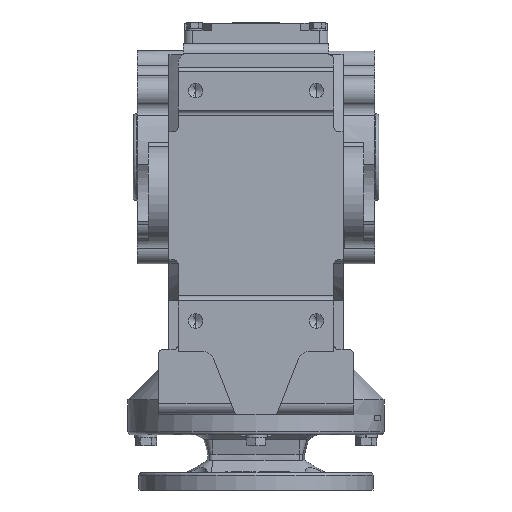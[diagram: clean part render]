
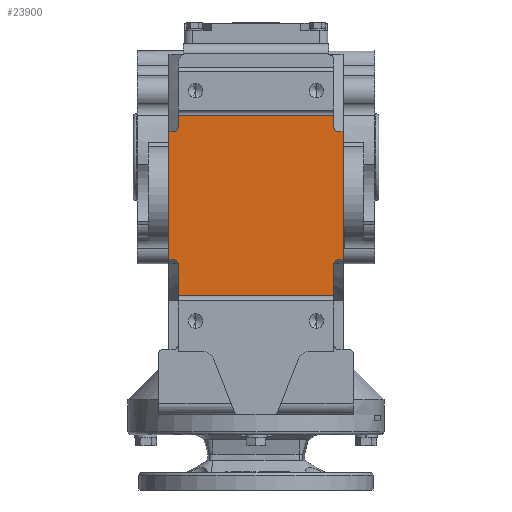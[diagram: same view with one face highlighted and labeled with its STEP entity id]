
A CAD part, front view. The second image highlights one B-rep face of the part: STEP entity #23900.
In plain terms, the highlighted planar face has unit normal (0, -1, 0).
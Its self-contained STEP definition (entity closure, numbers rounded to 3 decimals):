
#852 = VECTOR ( 'NONE', #52463, 1000. ) ;
#855 = LINE ( 'NONE', #52421, #909 ) ;
#856 = VECTOR ( 'NONE', #52420, 1000. ) ;
#905 = LINE ( 'NONE', #52432, #852 ) ;
#909 = VECTOR ( 'NONE', #52422, 1000. ) ;
#913 = VECTOR ( 'NONE', #52414, 1000. ) ;
#914 = LINE ( 'NONE', #52419, #913 ) ;
#920 = CIRCLE ( 'NONE', #28928, 5. ) ;
#921 = VECTOR ( 'NONE', #52410, 1000. ) ;
#931 = LINE ( 'NONE', #52415, #856 ) ;
#933 = VECTOR ( 'NONE', #52399, 1000. ) ;
#937 = LINE ( 'NONE', #52408, #921 ) ;
#939 = VECTOR ( 'NONE', #52390, 1000. ) ;
#940 = LINE ( 'NONE', #52398, #933 ) ;
#943 = CIRCLE ( 'NONE', #28926, 5. ) ;
#945 = LINE ( 'NONE', #52392, #939 ) ;
#5022 = CARTESIAN_POINT ( 'NONE',  ( 85., -206., 7. ) ) ;
#5023 = DIRECTION ( 'NONE',  ( 0., 0., -1. ) ) ;
#5299 = CARTESIAN_POINT ( 'NONE',  ( -85., -206., 7. ) ) ;
#5300 = DIRECTION ( 'NONE',  ( 0., 0., 1. ) ) ;
#5462 = CARTESIAN_POINT ( 'NONE',  ( -76., -206., -103. ) ) ;
#5463 = DIRECTION ( 'NONE',  ( 0., 0., 1. ) ) ;
#5464 = CARTESIAN_POINT ( 'NONE',  ( 81., -206., -105. ) ) ;
#5465 = DIRECTION ( 'NONE',  ( 0., 1., 0. ) ) ;
#5466 = DIRECTION ( 'NONE',  ( 0., 0., -1. ) ) ;
#5471 = CARTESIAN_POINT ( 'NONE',  ( -81., -206., -105. ) ) ;
#5472 = DIRECTION ( 'NONE',  ( 0., 1., 0. ) ) ;
#5473 = DIRECTION ( 'NONE',  ( 0., 0., -1. ) ) ;
#5474 = CARTESIAN_POINT ( 'NONE',  ( -112., -206., -135.346 ) ) ;
#5475 = DIRECTION ( 'NONE',  ( 1., 0., 0. ) ) ;
#5476 = CARTESIAN_POINT ( 'NONE',  ( 76., -206., -100. ) ) ;
#5477 = DIRECTION ( 'NONE',  ( 0., 0., -1. ) ) ;
#12679 = EDGE_CURVE ( 'NONE', #20403, #20412, #943, .T. ) ;
#12680 = EDGE_CURVE ( 'NONE', #20403, #20426, #945, .T. ) ;
#12682 = EDGE_CURVE ( 'NONE', #20428, #20429, #940, .T. ) ;
#12686 = EDGE_CURVE ( 'NONE', #20424, #20410, #937, .T. ) ;
#12689 = EDGE_CURVE ( 'NONE', #20518, #20410, #920, .T. ) ;
#12691 = EDGE_CURVE ( 'NONE', #20518, #20436, #931, .T. ) ;
#12693 = EDGE_CURVE ( 'NONE', #20434, #20436, #914, .T. ) ;
#12695 = EDGE_CURVE ( 'NONE', #20434, #20412, #855, .T. ) ;
#12703 = EDGE_CURVE ( 'NONE', #20447, #20450, #905, .T. ) ;
#15308 = VECTOR ( 'NONE', #5477, 1000. ) ;
#15505 = FACE_OUTER_BOUND ( 'NONE', #26756, .T. ) ;
#16017 = EDGE_CURVE ( 'NONE', #20426, #20429, #49816, .T. ) ;
#16151 = EDGE_CURVE ( 'NONE', #20450, #20424, #50081, .T. ) ;
#16280 = EDGE_CURVE ( 'NONE', #21423, #20428, #49984, .T. ) ;
#16287 = EDGE_CURVE ( 'NONE', #20447, #21424, #49994, .T. ) ;
#16290 = EDGE_CURVE ( 'NONE', #21407, #21424, #49913, .T. ) ;
#16291 = EDGE_CURVE ( 'NONE', #21407, #21432, #50048, .T. ) ;
#16292 = EDGE_CURVE ( 'NONE', #21423, #21432, #49970, .T. ) ;
#16822 = CARTESIAN_POINT ( 'NONE',  ( 81., -206., 24.651 ) ) ;
#16823 = CARTESIAN_POINT ( 'NONE',  ( -81., -206., 24.651 ) ) ;
#16828 = CARTESIAN_POINT ( 'NONE',  ( 76., -206., 29.651 ) ) ;
#16832 = CARTESIAN_POINT ( 'NONE',  ( -85., -206., 24.651 ) ) ;
#16833 = CARTESIAN_POINT ( 'NONE',  ( 85., -206., 24.651 ) ) ;
#16834 = CARTESIAN_POINT ( 'NONE',  ( 81., -206., -100. ) ) ;
#16835 = CARTESIAN_POINT ( 'NONE',  ( 85., -206., -100. ) ) ;
#16837 = CARTESIAN_POINT ( 'NONE',  ( 76., -206., 41. ) ) ;
#16838 = CARTESIAN_POINT ( 'NONE',  ( -76., -206., 41. ) ) ;
#16843 = CARTESIAN_POINT ( 'NONE',  ( -81., -206., -100. ) ) ;
#16845 = CARTESIAN_POINT ( 'NONE',  ( -85., -206., -100. ) ) ;
#16880 = CARTESIAN_POINT ( 'NONE',  ( -76., -206., 29.651 ) ) ;
#16908 = CARTESIAN_POINT ( 'NONE',  ( -76., -206., -135.346 ) ) ;
#16916 = CARTESIAN_POINT ( 'NONE',  ( 76., -206., -105. ) ) ;
#16917 = CARTESIAN_POINT ( 'NONE',  ( -76., -206., -105. ) ) ;
#16921 = CARTESIAN_POINT ( 'NONE',  ( 76., -206., -135.346 ) ) ;
#17529 = AXIS2_PLACEMENT_3D ( 'NONE', #34493, #34502, #34503 ) ;
#20403 = VERTEX_POINT ( 'NONE', #16822 ) ;
#20410 = VERTEX_POINT ( 'NONE', #16823 ) ;
#20412 = VERTEX_POINT ( 'NONE', #16828 ) ;
#20424 = VERTEX_POINT ( 'NONE', #16832 ) ;
#20426 = VERTEX_POINT ( 'NONE', #16833 ) ;
#20428 = VERTEX_POINT ( 'NONE', #16834 ) ;
#20429 = VERTEX_POINT ( 'NONE', #16835 ) ;
#20434 = VERTEX_POINT ( 'NONE', #16837 ) ;
#20436 = VERTEX_POINT ( 'NONE', #16838 ) ;
#20447 = VERTEX_POINT ( 'NONE', #16843 ) ;
#20450 = VERTEX_POINT ( 'NONE', #16845 ) ;
#20518 = VERTEX_POINT ( 'NONE', #16880 ) ;
#21407 = VERTEX_POINT ( 'NONE', #16908 ) ;
#21423 = VERTEX_POINT ( 'NONE', #16916 ) ;
#21424 = VERTEX_POINT ( 'NONE', #16917 ) ;
#21432 = VERTEX_POINT ( 'NONE', #16921 ) ;
#23900 = ADVANCED_FACE ( 'NONE', ( #15505 ), #34500, .T. ) ;
#26756 = EDGE_LOOP ( 'NONE', ( #35875, #36647, #36603, #36437, #36340, #35821, #35441, #36601, #36408, #35130, #36667, #36745, #36083, #35851, #35725, #35779 ) ) ;
#28926 = AXIS2_PLACEMENT_3D ( 'NONE', #52393, #52394, #52395 ) ;
#28928 = AXIS2_PLACEMENT_3D ( 'NONE', #52416, #52417, #52418 ) ;
#29331 = AXIS2_PLACEMENT_3D ( 'NONE', #5464, #5465, #5466 ) ;
#29332 = AXIS2_PLACEMENT_3D ( 'NONE', #5471, #5472, #5473 ) ;
#34493 = CARTESIAN_POINT ( 'NONE',  ( -112., -206., 7. ) ) ;
#34500 = PLANE ( 'NONE',  #17529 ) ;
#34502 = DIRECTION ( 'NONE',  ( 0., -1., 0. ) ) ;
#34503 = DIRECTION ( 'NONE',  ( 0., 0., -1. ) ) ;
#35130 = ORIENTED_EDGE ( 'NONE', *, *, #16291, .T. ) ;
#35441 = ORIENTED_EDGE ( 'NONE', *, *, #12703, .F. ) ;
#35725 = ORIENTED_EDGE ( 'NONE', *, *, #12680, .F. ) ;
#35779 = ORIENTED_EDGE ( 'NONE', *, *, #12679, .T. ) ;
#35821 = ORIENTED_EDGE ( 'NONE', *, *, #16151, .F. ) ;
#35851 = ORIENTED_EDGE ( 'NONE', *, *, #16017, .F. ) ;
#35875 = ORIENTED_EDGE ( 'NONE', *, *, #12695, .F. ) ;
#36083 = ORIENTED_EDGE ( 'NONE', *, *, #12682, .T. ) ;
#36340 = ORIENTED_EDGE ( 'NONE', *, *, #12686, .F. ) ;
#36408 = ORIENTED_EDGE ( 'NONE', *, *, #16290, .F. ) ;
#36437 = ORIENTED_EDGE ( 'NONE', *, *, #12689, .T. ) ;
#36601 = ORIENTED_EDGE ( 'NONE', *, *, #16287, .T. ) ;
#36603 = ORIENTED_EDGE ( 'NONE', *, *, #12691, .F. ) ;
#36647 = ORIENTED_EDGE ( 'NONE', *, *, #12693, .T. ) ;
#36667 = ORIENTED_EDGE ( 'NONE', *, *, #16292, .F. ) ;
#36745 = ORIENTED_EDGE ( 'NONE', *, *, #16280, .T. ) ;
#49787 = VECTOR ( 'NONE', #5475, 1000. ) ;
#49810 = VECTOR ( 'NONE', #5300, 1000. ) ;
#49816 = LINE ( 'NONE', #5022, #50060 ) ;
#49913 = LINE ( 'NONE', #5462, #50047 ) ;
#49970 = LINE ( 'NONE', #5476, #15308 ) ;
#49984 = CIRCLE ( 'NONE', #29331, 5. ) ;
#49994 = CIRCLE ( 'NONE', #29332, 5. ) ;
#50047 = VECTOR ( 'NONE', #5463, 1000. ) ;
#50048 = LINE ( 'NONE', #5474, #49787 ) ;
#50060 = VECTOR ( 'NONE', #5023, 1000. ) ;
#50081 = LINE ( 'NONE', #5299, #49810 ) ;
#52390 = DIRECTION ( 'NONE',  ( 1., 0., 0. ) ) ;
#52392 = CARTESIAN_POINT ( 'NONE',  ( 85., -206., 24.651 ) ) ;
#52393 = CARTESIAN_POINT ( 'NONE',  ( 81., -206., 29.651 ) ) ;
#52394 = DIRECTION ( 'NONE',  ( 0., 1., 0. ) ) ;
#52395 = DIRECTION ( 'NONE',  ( 0., 0., -1. ) ) ;
#52398 = CARTESIAN_POINT ( 'NONE',  ( 76., -206., -100. ) ) ;
#52399 = DIRECTION ( 'NONE',  ( 1., 0., 0. ) ) ;
#52408 = CARTESIAN_POINT ( 'NONE',  ( -76., -206., 24.651 ) ) ;
#52410 = DIRECTION ( 'NONE',  ( 1., 0., 0. ) ) ;
#52414 = DIRECTION ( 'NONE',  ( -1., 0., 0. ) ) ;
#52415 = CARTESIAN_POINT ( 'NONE',  ( -76., -206., 46. ) ) ;
#52416 = CARTESIAN_POINT ( 'NONE',  ( -81., -206., 29.651 ) ) ;
#52417 = DIRECTION ( 'NONE',  ( 0., 1., 0. ) ) ;
#52418 = DIRECTION ( 'NONE',  ( 0., 0., -1. ) ) ;
#52419 = CARTESIAN_POINT ( 'NONE',  ( -112., -206., 41. ) ) ;
#52420 = DIRECTION ( 'NONE',  ( 0., 0., 1. ) ) ;
#52421 = CARTESIAN_POINT ( 'NONE',  ( 76., -206., 46. ) ) ;
#52422 = DIRECTION ( 'NONE',  ( 0., 0., -1. ) ) ;
#52432 = CARTESIAN_POINT ( 'NONE',  ( -76., -206., -100. ) ) ;
#52463 = DIRECTION ( 'NONE',  ( -1., 0., 0. ) ) ;
